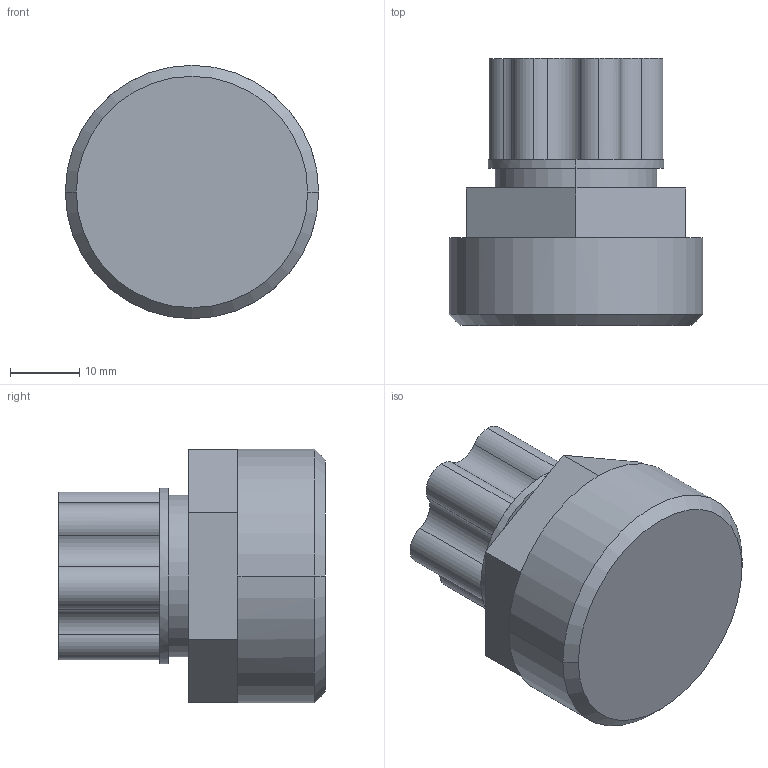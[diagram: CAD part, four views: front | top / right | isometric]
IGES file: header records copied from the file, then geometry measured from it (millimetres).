
Start section: SolidWorks IGES file using analytic representation for surfaces
Global section: file name: S:\Product Visuals\REVISED-30L-TOP-MOUNT-FITTINGS\IGS\top-straight-outlet-only\synchro-flare\06-synchro-flare-with-top-mount-adapter.IGS; native system: SolidWorks 2012; preprocessor: SolidWorks 2012; author: rachel.dressel; date: 121127.162409; units: inch
Bounding box: 36.6 x 38.56 x 36.66 mm (x, y, z)
Volume: 26601.1 mm3; surface area: 6092.2 mm2
Topology: 1 solids, 1 shells, 54 faces, 127 edges, 78 vertices
Faces by surface type: plane 29, revolution 25
